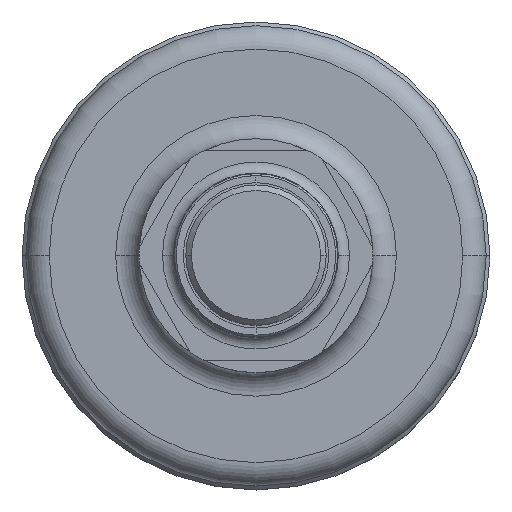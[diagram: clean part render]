
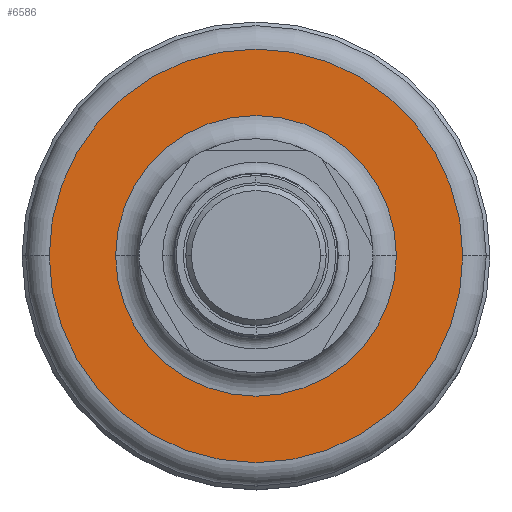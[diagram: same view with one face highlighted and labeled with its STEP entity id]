
A CAD part, top view. The second image highlights one B-rep face of the part: STEP entity #6586.
In plain terms, the highlighted planar face has unit normal (0, 0, 1).
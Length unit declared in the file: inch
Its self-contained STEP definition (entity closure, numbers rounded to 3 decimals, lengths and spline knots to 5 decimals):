
#5859=CARTESIAN_POINT('',(0.,0.,0.348));
#5860=DIRECTION('',(0.,0.,1.));
#5861=DIRECTION('',(1.,0.,0.));
#5862=AXIS2_PLACEMENT_3D('',#5859,#5860,#5861);
#5894=CARTESIAN_POINT('',(0.,0.,0.348));
#5895=DIRECTION('',(0.,0.,-1.));
#5896=DIRECTION('',(1.,0.,0.));
#5897=AXIS2_PLACEMENT_3D('',#5894,#5895,#5896);
#6415=CARTESIAN_POINT('',(1.105,0.,0.348));
#6417=VERTEX_POINT('',#6415);
#6425=CARTESIAN_POINT('',(-1.105,0.,0.348));
#6427=VERTEX_POINT('',#6425);
#6575=CARTESIAN_POINT('',(0.,0.,0.348));
#6576=DIRECTION('',(0.,0.,1.));
#6577=DIRECTION('',(-1.,0.,0.));
#6578=AXIS2_PLACEMENT_3D('',#6575,#6576,#6577);
#6579=PLANE('',#6578);
#6581=ORIENTED_EDGE('',*,*,#6580,.F.);
#6583=ORIENTED_EDGE('',*,*,#6582,.T.);
#6584=EDGE_LOOP('',(#6581,#6583));
#6585=FACE_OUTER_BOUND('',#6584,.F.);
#6586=ADVANCED_FACE('',(#6585),#6579,.T.);
#5863=CIRCLE('',#5862,1.105);
#5898=CIRCLE('',#5897,1.105);
#6580=EDGE_CURVE('',#6417,#6427,#5863,.T.);
#6582=EDGE_CURVE('',#6417,#6427,#5898,.T.);
